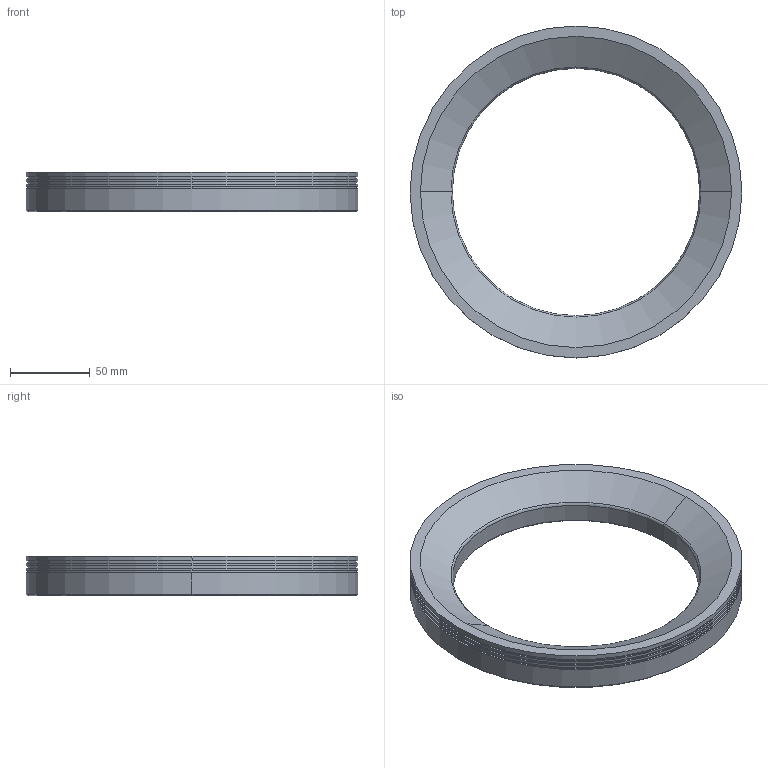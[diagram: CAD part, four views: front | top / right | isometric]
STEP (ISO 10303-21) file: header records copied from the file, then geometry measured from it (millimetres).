
FILE_DESCRIPTION((''),'2;1');
FILE_NAME('DRL7030','2020-03-28T',('ASUS'),(''),'PRO/ENGINEER BY PARAMETRIC TECHNOLOGY CORPORATION, 2008380','PRO/ENGINEER BY PARAMETRIC TECHNOLOGY CORPORATION, 2008380','');
FILE_SCHEMA(('CONFIG_CONTROL_DESIGN'));
Length unit declared in the file: millimetre
Products named in the file (1): DRL7030
Bounding box: 208 x 208 x 25 mm (x, y, z)
Volume: 312928 mm3; surface area: 58354.5 mm2
Topology: 1 solids, 5 shells, 68 faces, 152 edges, 92 vertices
Faces by surface type: cylinder 32, cone 22, plane 12, torus 2
Entity records: 1901 total; most frequent: DIRECTION 372, CARTESIAN_POINT 305, ORIENTED_EDGE 272, AXIS2_PLACEMENT_3D 159, EDGE_CURVE 144, VERTEX_POINT 92, CIRCLE 90, EDGE_LOOP 84
